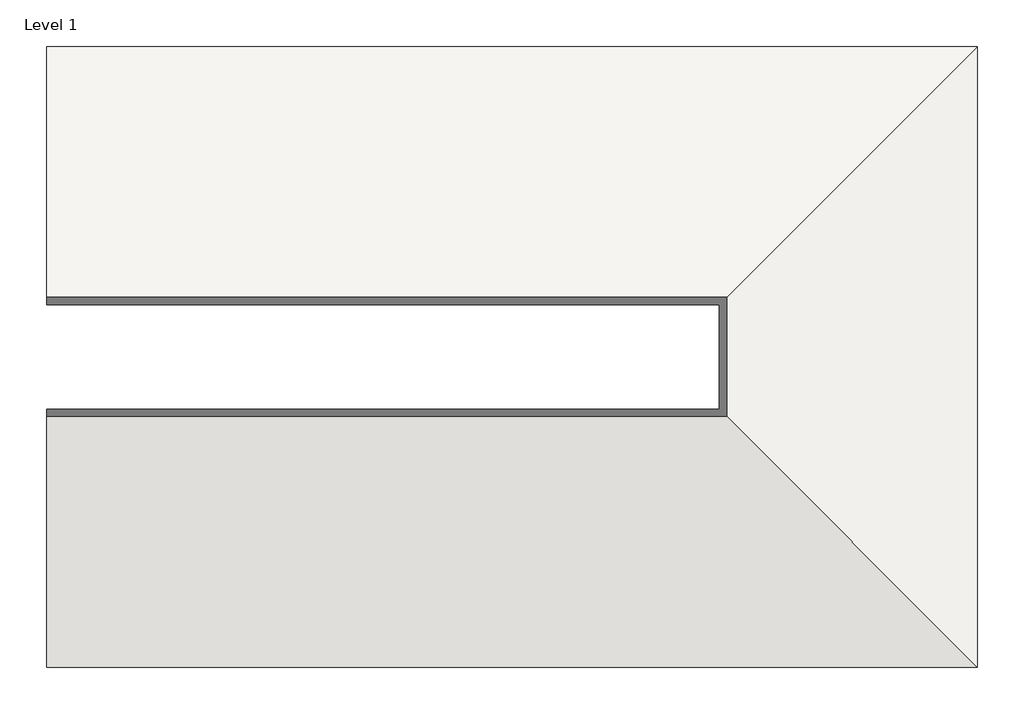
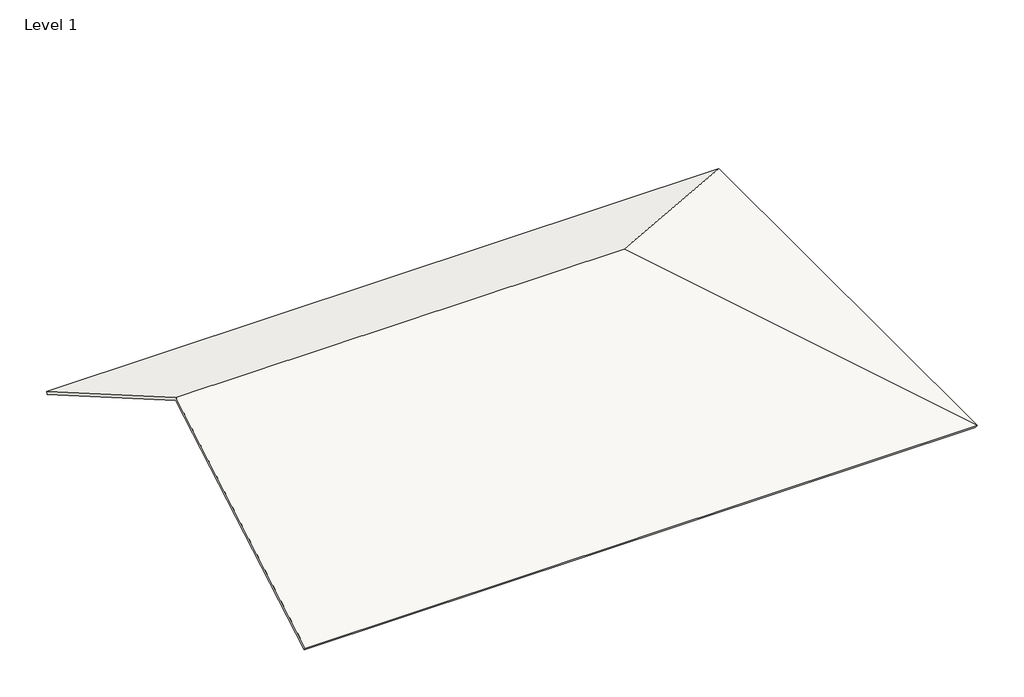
# One storey: 1 roof.
"""IFC4 building model written with IfcOpenShell, lengths in millimetres."""

import ifcopenshell
import ifcopenshell.guid

model = None  # the IFC model being written
_history = None  # IfcOwnerHistory: only IFC2X3 demands one
_inside = {}  # id of a spatial element -> (the spatial element, [elements in it])
_under = {}  # id of a project, library or spatial element -> (it, [spatial elements below it])
_declared = {}  # id of a project -> (the project, [libraries it declares])
_typed = {}  # id of a type object -> (the type object, [elements of that type])
_made_of = {}  # id of a material, layer set ... -> (it, [elements and type objects made of it])


def new_model(schema):
    """Start an empty IFC model of exactly this schema.

    Asked for "IFC4X3", IfcOpenShell would pick the latest addendum, in which some entities
    have other attributes; the version numbers below select the first issue.
    IFC2X3 requires an IfcOwnerHistory on every rooted entity: one is made here for all.
    """
    global model, _history
    if schema == "IFC4X3":
        model = ifcopenshell.file(schema_version=(4, 3, 0, 0))
    else:
        model = ifcopenshell.file(schema=schema)
    _inside.clear()
    _under.clear()
    _declared.clear()
    _typed.clear()
    _made_of.clear()
    _history = None
    if model.schema == "IFC2X3":
        org = make("IfcOrganization", Name="unknown")
        user = make(
            "IfcPersonAndOrganization",
            ThePerson=make("IfcPerson", FamilyName="unknown"),
            TheOrganization=org,
        )
        app = make(
            "IfcApplication",
            ApplicationDeveloper=org,
            Version="unknown",
            ApplicationFullName="unknown",
            ApplicationIdentifier="unknown",
        )
        _history = make(
            "IfcOwnerHistory",
            OwningUser=user,
            OwningApplication=app,
            ChangeAction="ADDED",
            CreationDate=0,
        )
    return model


def make(cls, **values):
    """One entity of the class cls with the attributes given. An attribute that is None is left unset."""
    return model.create_entity(
        cls, **{name: value for name, value in values.items() if value is not None}
    )


def rooted(cls, **values):
    """An entity with a GlobalId (a new one), such as an element, a storey or a relation."""
    return make(cls, GlobalId=ifcopenshell.guid.new(), OwnerHistory=_history, **values)


def si_unit(unit_type, name, prefix=None):
    """IfcSIUnit, for example si_unit("LENGTHUNIT", "METRE", prefix="MILLI")."""
    return make("IfcSIUnit", UnitType=unit_type, Prefix=prefix, Name=name)


def assignment(units):
    """IfcUnitAssignment: the units of a project."""
    return None if units is None else make("IfcUnitAssignment", Units=units)


def point(xyz):
    """IfcCartesianPoint."""
    return None if xyz is None else make("IfcCartesianPoint", Coordinates=xyz)


def direction(xyz):
    """IfcDirection."""
    return None if xyz is None else make("IfcDirection", DirectionRatios=xyz)


def frame(location, z_axis=None, x_axis=None):
    """IfcAxis2Placement3D, a coordinate frame: its origin and axes. An axis left out is left unset."""
    return make(
        "IfcAxis2Placement3D",
        Location=point(location),
        Axis=direction(z_axis),
        RefDirection=direction(x_axis),
    )


def origin():
    """The frame at (0, 0, 0) with its axes left unset."""
    return frame((0.0, 0.0, 0.0))


def place(relative_to, where):
    """IfcLocalPlacement: puts the frame where relative to a parent placement (None: the world)."""
    return make(
        "IfcLocalPlacement", PlacementRelTo=relative_to, RelativePlacement=where
    )


def context(
    kind, dimensions, precision=None, world=None, true_north=None, identifier=None
):
    """IfcGeometricRepresentationContext, for example the 3D "Model" context."""
    return make(
        "IfcGeometricRepresentationContext",
        ContextIdentifier=identifier,
        ContextType=kind,
        CoordinateSpaceDimension=dimensions,
        Precision=precision,
        WorldCoordinateSystem=world,
        TrueNorth=true_north,
    )


def project(units=None, contexts=None):
    """IfcProject with its units and contexts."""
    return rooted(
        "IfcProject",
        Name="project",
        RepresentationContexts=contexts,
        UnitsInContext=assignment(units),
    )


def spatial(cls, under=None, at=None, **own):
    """A site, building, storey or space (cls), placed at a placement, below another one or the project."""
    s = rooted(cls, ObjectPlacement=at, **own)
    if under is not None:
        _under.setdefault(under.id(), (under, []))[1].append(s)
    return s


def faces_of(points, faces, orient=None, outer=None):
    """IfcFace entities. A face is a list of loops; a loop is a list of indices into points, from 0.

    orient and outer hold one flag for each loop. By default every Orientation is true, the
    first loop of a face is its IfcFaceOuterBound and the others are IfcFaceBound.
    """
    made = []
    for i, loops in enumerate(faces):
        bounds = []
        for j, loop in enumerate(loops):
            is_outer = j == 0 if outer is None else outer[i][j]
            bounds.append(
                make(
                    "IfcFaceOuterBound" if is_outer else "IfcFaceBound",
                    Bound=make("IfcPolyLoop", Polygon=[points[k] for k in loop]),
                    Orientation=True if orient is None else orient[i][j],
                )
            )
        made.append(make("IfcFace", Bounds=bounds))
    return made


def faceted_brep(points, faces, orient=None, outer=None, voids=None):
    """IfcFacetedBrep: a solid bounded by flat faces; with voids (closed shells), ...WithVoids."""
    shared = [point(p) for p in points]
    hull = make("IfcClosedShell", CfsFaces=faces_of(shared, faces, orient, outer))
    if voids is None:
        return make("IfcFacetedBrep", Outer=hull)
    return make(
        "IfcFacetedBrepWithVoids",
        Outer=hull,
        Voids=[
            make(cls, CfsFaces=faces_of(shared, fs, o, b)) for cls, fs, o, b in voids
        ],
    )


def shape(context_of_items, identifier, shape_type, items):
    """IfcShapeRepresentation: the items that make up one representation, for example the "Body"."""
    return make(
        "IfcShapeRepresentation",
        ContextOfItems=context_of_items,
        RepresentationIdentifier=identifier,
        RepresentationType=shape_type,
        Items=items,
    )


def made_of(thing, what):
    """Note that an element or type object is made of a material, layer set ...; save() writes the relation."""
    if what is not None:
        _made_of.setdefault(what.id(), (what, []))[1].append(thing)
    return thing


def element(
    cls,
    number,
    at=None,
    inside=None,
    cuts=None,
    type_object=None,
    material=None,
    context=None,
    identifier="Body",
    shape_type=None,
    held_by="IfcProductDefinitionShape",
    body=None,
    shapes=None,
    **own,
):
    """One element of the class cls, such as IfcWall. Its Tag is "e" and its number.

    at: its placement. inside: the storey or other place that contains it. cuts: it is an
    opening in that element (IfcRelVoidsElement). A single representation is given by context,
    identifier, shape_type and body (its items); several are given by shapes. held_by: the class
    of the entity that holds the representations. save() writes the other relations.
    """
    e = rooted(cls, Tag="e%d" % number, ObjectPlacement=at, **own)
    if body is not None:
        shapes = [shape(context, identifier, shape_type, body)]
    if shapes is not None:
        e.Representation = make(held_by, Representations=shapes)
    if inside is not None:
        _inside.setdefault(inside.id(), (inside, []))[1].append(e)
    if cuts is not None:
        rooted(
            "IfcRelVoidsElement", RelatingBuildingElement=cuts, RelatedOpeningElement=e
        )
    if type_object is not None:
        _typed.setdefault(type_object.id(), (type_object, []))[1].append(e)
    return made_of(e, material)


def aggregate(whole, parts):
    """IfcRelAggregates: a whole, such as a stair, and the parts it consists of."""
    return rooted("IfcRelAggregates", RelatingObject=whole, RelatedObjects=parts)


def save(model, path):
    """Write the relations noted so far, then the file.

    IfcRelAggregates (storeys below a building ...), IfcRelContainedInSpatialStructure (elements
    in a storey), IfcRelDefinesByType, IfcRelAssociatesMaterial and IfcRelDeclares: one each for
    every whole, place, type object, material and project.
    """
    for whole, parts in _under.values():
        aggregate(whole, parts)
    for where, things in _inside.values():
        rooted(
            "IfcRelContainedInSpatialStructure",
            RelatedElements=things,
            RelatingStructure=where,
        )
    for kind, things in _typed.values():
        rooted("IfcRelDefinesByType", RelatedObjects=things, RelatingType=kind)
    for what, things in _made_of.values():
        rooted("IfcRelAssociatesMaterial", RelatedObjects=things, RelatingMaterial=what)
    for by, libraries in _declared.values():
        rooted("IfcRelDeclares", RelatingContext=by, RelatedDefinitions=libraries)
    model.write(path)


model = new_model("IFC4")

# Units and contexts
model_context = context("Model", 3, world=origin())
ifc_project = project(units=[si_unit("LENGTHUNIT", "METRE", prefix="MILLI")], contexts=[model_context])

# Site, building, storey
site = spatial("IfcSite", under=ifc_project)
building = spatial("IfcBuilding", under=site)
storey = spatial("IfcBuildingStorey", under=building, Name="Level 1", Elevation=0.0)

# Roof
placement = place(None, origin())
element("IfcRoof", 1, ObjectType="NLRS_47_sinus-dakpan-rustiek-engobe_wienerberger", at=placement, inside=storey, context=model_context, shape_type="Brep", body=[
    faceted_brep([(-17729.6991253, -396.7067355, 1443.375673), (-12729.6991253, -396.7067355, 1443.375673), (-10245.1991253, -2881.2067355, 8.9489292), (-17729.6991253, -2881.2067355, 8.9489292), (-17729.6991253, 2087.7932645, 8.9489292), (-10245.1991253, 2087.7932645, 8.9489292), (-12729.6991253, -396.7067355, 1479.1713897), (-17729.6991253, -396.7067355, 1479.1713897), (-17729.6991253, -2896.7067355, 35.7957167), (-10229.6991253, -2896.7067355, 35.7957167), (-17729.6991253, 2103.2932645, 35.7957167), (-10229.6991253, 2103.2932645, 35.7957167)], [[[0, 1, 2, 3]], [[0, 4, 5, 1]], [[6, 7, 8, 9]], [[10, 7, 6, 11]], [[4, 0, 3, 8, 7, 10]], [[1, 5, 2]], [[11, 6, 9]], [[3, 2, 9, 8]], [[2, 5, 11, 9]], [[5, 4, 10, 11]]]),
])

save(model, "model.ifc")
